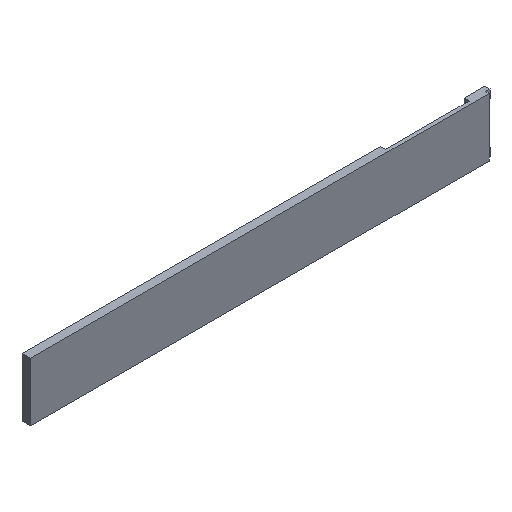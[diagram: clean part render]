
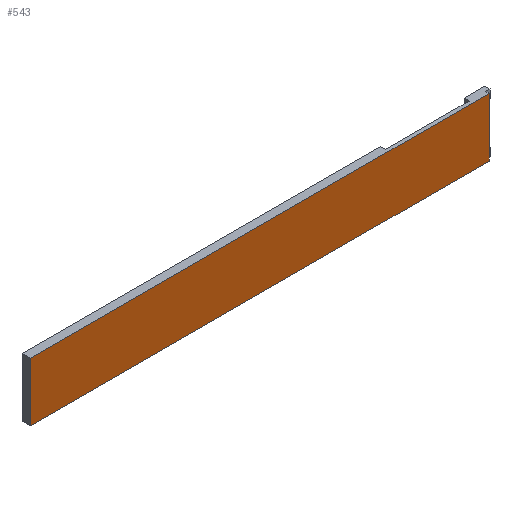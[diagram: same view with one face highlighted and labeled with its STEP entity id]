
A CAD part, isometric view. The second image highlights one B-rep face of the part: STEP entity #543.
In plain terms, the highlighted planar face has unit normal (0, -1, 0).
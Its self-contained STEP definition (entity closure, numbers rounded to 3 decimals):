
#6 = DIRECTION ( 'NONE',  ( 0., 0., 1. ) ) ;
#23 = VECTOR ( 'NONE', #563, 1000. ) ;
#83 = DIRECTION ( 'NONE',  ( 1., 0., 0. ) ) ;
#88 = AXIS2_PLACEMENT_3D ( 'NONE', #958, #310, #6 ) ;
#133 = ORIENTED_EDGE ( 'NONE', *, *, #427, .F. ) ;
#134 = CARTESIAN_POINT ( 'NONE',  ( -137., 0., -17.5 ) ) ;
#167 = LINE ( 'NONE', #479, #23 ) ;
#248 = VERTEX_POINT ( 'NONE', #911 ) ;
#288 = VERTEX_POINT ( 'NONE', #436 ) ;
#293 = DIRECTION ( 'NONE',  ( -1., 0., 0. ) ) ;
#296 = LINE ( 'NONE', #412, #727 ) ;
#310 = DIRECTION ( 'NONE',  ( 0., 1., 0. ) ) ;
#401 = CARTESIAN_POINT ( 'NONE',  ( -142., 0., 17.5 ) ) ;
#412 = CARTESIAN_POINT ( 'NONE',  ( -137., 0., -17.5 ) ) ;
#427 = EDGE_CURVE ( 'NONE', #288, #986, #503, .T. ) ;
#429 = VECTOR ( 'NONE', #83, 1000. ) ;
#436 = CARTESIAN_POINT ( 'NONE',  ( 137., 0., -17.5 ) ) ;
#453 = ORIENTED_EDGE ( 'NONE', *, *, #920, .F. ) ;
#467 = ORIENTED_EDGE ( 'NONE', *, *, #597, .F. ) ;
#479 = CARTESIAN_POINT ( 'NONE',  ( 137., 0., -17.5 ) ) ;
#503 = LINE ( 'NONE', #582, #954 ) ;
#543 = ADVANCED_FACE ( 'NONE', ( #586 ), #872, .F. ) ;
#563 = DIRECTION ( 'NONE',  ( 0., 0., -1. ) ) ;
#568 = ORIENTED_EDGE ( 'NONE', *, *, #834, .F. ) ;
#570 = CARTESIAN_POINT ( 'NONE',  ( 137., 0., 17.5 ) ) ;
#582 = CARTESIAN_POINT ( 'NONE',  ( -142., 0., -17.5 ) ) ;
#586 = FACE_OUTER_BOUND ( 'NONE', #677, .T. ) ;
#597 = EDGE_CURVE ( 'NONE', #843, #288, #167, .T. ) ;
#677 = EDGE_LOOP ( 'NONE', ( #467, #453, #568, #133 ) ) ;
#716 = DIRECTION ( 'NONE',  ( 0., 0., 1. ) ) ;
#727 = VECTOR ( 'NONE', #716, 1000. ) ;
#834 = EDGE_CURVE ( 'NONE', #986, #248, #296, .T. ) ;
#843 = VERTEX_POINT ( 'NONE', #570 ) ;
#872 = PLANE ( 'NONE',  #88 ) ;
#911 = CARTESIAN_POINT ( 'NONE',  ( -137., 0., 17.5 ) ) ;
#920 = EDGE_CURVE ( 'NONE', #248, #843, #969, .T. ) ;
#954 = VECTOR ( 'NONE', #293, 1000. ) ;
#958 = CARTESIAN_POINT ( 'NONE',  ( 0., 0., 0. ) ) ;
#969 = LINE ( 'NONE', #401, #429 ) ;
#986 = VERTEX_POINT ( 'NONE', #134 ) ;
